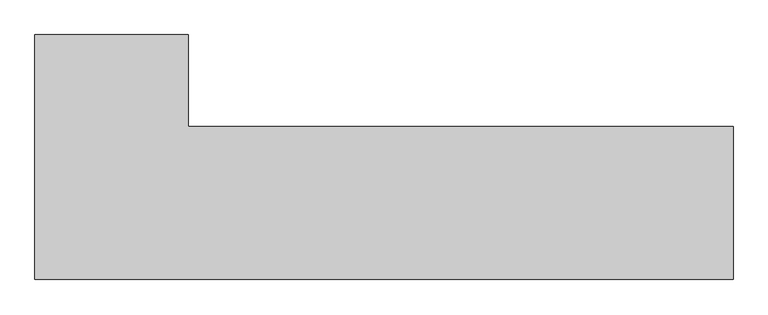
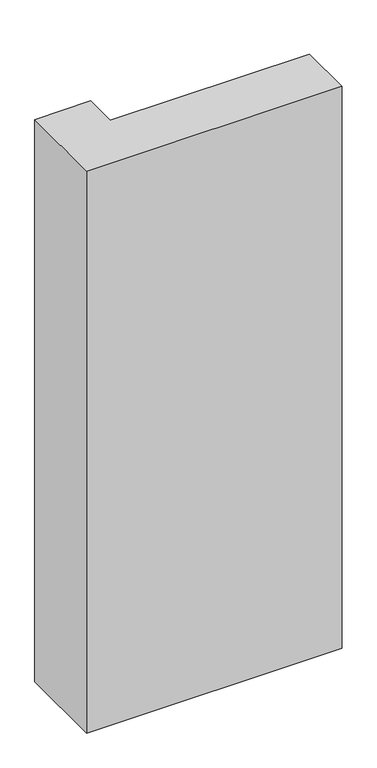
"""IFC4 building model written with IfcOpenShell, lengths in millimetres: column geometry, Columna Estructural Ele : ECO_Ele 40x114x25."""

from ifc_helpers import new_model, si_unit, frame, origin, place, context, project, spatial, polyline, outline, extrude, source, transform, mapped, element, save


def column_c322f5df(model_context):
    return source(origin(), model_context, "Body", "SweptSolid", [
        extrude(outline(polyline([(125.0, 275.0), (125.0, 125.0), (1015.0, 125.0), (1015.0, -125.0), (-125.0, -125.0), (-125.0, 275.0), (125.0, 275.0)])), frame((0.0, 0.0, 5400.0), z_axis=(0.0, 0.0, 1.0), x_axis=(1.0, 0.0, 0.0)), (0.0, 0.0, 1.0), 2650.0),
    ])


if __name__ == "__main__":
    model = new_model("IFC4")
    model_context = context("Model", 3, world=origin())
    ifc_project = project(units=[si_unit("LENGTHUNIT", "METRE", prefix="MILLI")], contexts=[model_context])
    site = spatial("IfcSite", under=ifc_project)
    building = spatial("IfcBuilding", under=site)
    placement = place(None, origin())
    column_shape = column_c322f5df(model_context)
    element("IfcColumn", 1, ObjectType="Columna Estructural Ele : ECO_Ele 40x114x25", at=placement, inside=building, context=model_context, shape_type="MappedRepresentation", body=[
        mapped(column_shape, transform((0.0, 0.0, 0.0), x_axis=(1.0, 0.0, 0.0), y_axis=(0.0, 1.0, 0.0), z_axis=(0.0, 0.0, 1.0))),
    ])
    save(model, "model.ifc")
